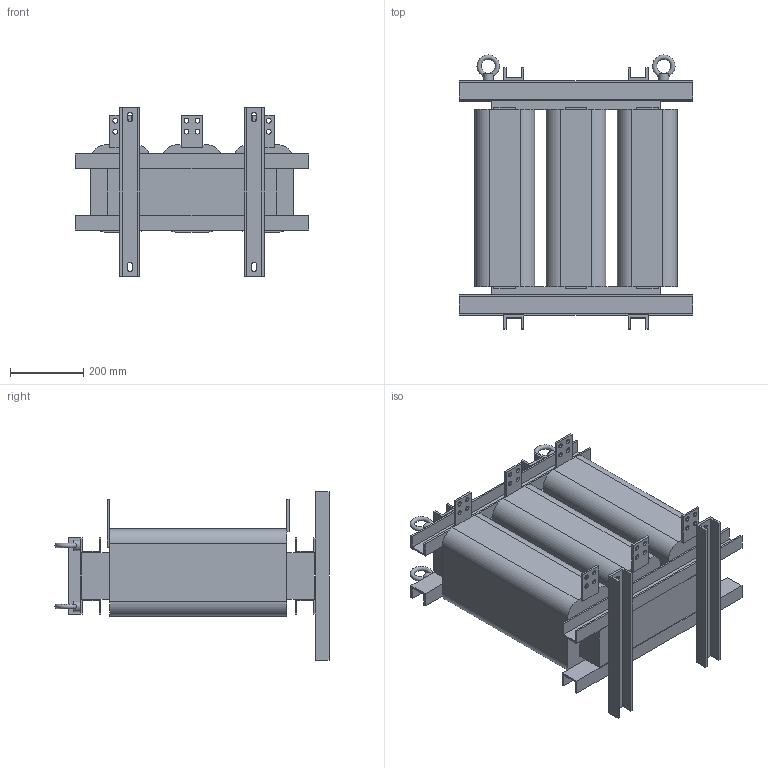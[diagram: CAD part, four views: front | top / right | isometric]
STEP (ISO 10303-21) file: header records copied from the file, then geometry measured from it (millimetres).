
FILE_DESCRIPTION(/* description */ (''),/* implementation_level */ '2;1');
FILE_NAME(/* name */ 'ACO-860-T6-4.stp',/* time_stamp */ '2025-01-23T16:42:59+04:00',/* author */ ('Александр (огранич)'),/* organization */ (''),/* preprocessor_version */ 'ST-DEVELOPER v19.2',/* originating_system */ 'Autodesk Inventor 2024',/* authorisation */ '');
FILE_SCHEMA (('AUTOMOTIVE_DESIGN { 1 0 10303 214 3 1 1 }'));
Length unit declared in the file: millimetre
Products named in the file (1): ACO-0015-T4-4
Bounding box: 640 x 750 x 460 mm (x, y, z)
Volume: 66904220.7 mm3; surface area: 2386264.5 mm2
Topology: 1 solids, 1 shells, 234 faces, 660 edges, 416 vertices
Faces by surface type: plane 182, cylinder 48, torus 4
Full cylindrical faces by diameter (mm): 13 x24, 28 x4
Entity records: 7923 total; most frequent: CARTESIAN_POINT 1663, ORIENTED_EDGE 1320, DIRECTION 1218, EDGE_CURVE 660, LINE 532, VECTOR 532, VERTEX_POINT 416, AXIS2_PLACEMENT_3D 343
